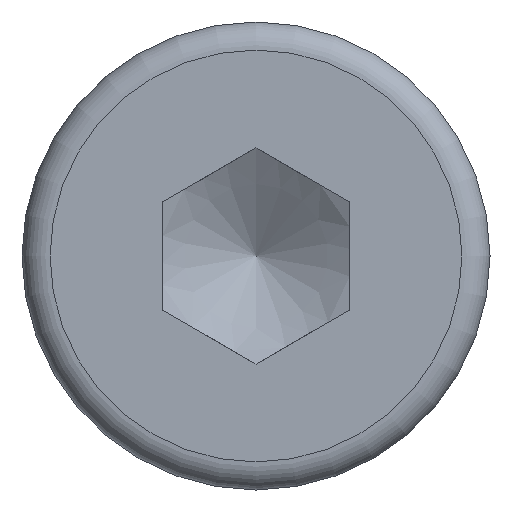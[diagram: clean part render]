
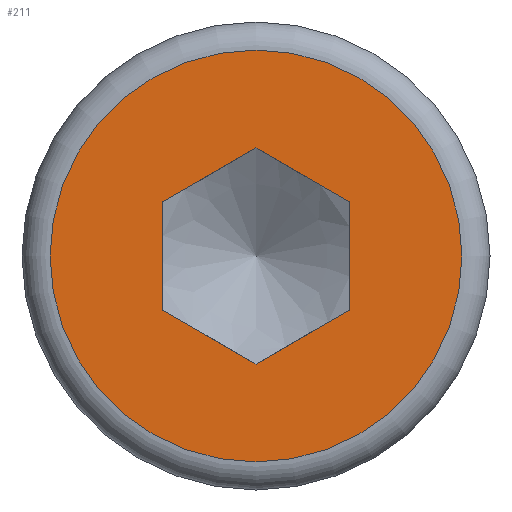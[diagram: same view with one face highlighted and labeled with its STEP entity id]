
A CAD part, left-side view. The second image highlights one B-rep face of the part: STEP entity #211.
In plain terms, the highlighted planar face has unit normal (-1, 0, 0).
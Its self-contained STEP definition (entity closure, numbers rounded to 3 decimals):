
#130=CARTESIAN_POINT('',(-4.,4.4,0.0));
#131=VERTEX_POINT('',#130);
#132=CARTESIAN_POINT('',(-4.,0.,0.0));
#133=DIRECTION('',(1.0,0.0,0.0));
#134=DIRECTION('',(0.0,-1.0,0.0));
#135=AXIS2_PLACEMENT_3D('',#132,#133,#134);
#136=CIRCLE('',#135,4.4);
#137=EDGE_CURVE('',#131,#131,#136,.T.);
#153=CARTESIAN_POINT('',(-4.,3.655,0.0));
#154=DIRECTION('',(-1.0,0.0,0.0));
#155=DIRECTION('',(0.0,0.0,1.0));
#156=AXIS2_PLACEMENT_3D('',#153,#154,#155);
#157=PLANE('',#156);
#158=ORIENTED_EDGE('',*,*,#137,.F.);
#159=EDGE_LOOP('',(#158));
#160=FACE_OUTER_BOUND('',#159,.T.);
#161=CARTESIAN_POINT('',(-4.,2.,-1.155));
#162=VERTEX_POINT('',#161);
#163=CARTESIAN_POINT('',(-4.,2.,1.155));
#164=VERTEX_POINT('',#163);
#165=CARTESIAN_POINT('',(-4.,2.,-1.155));
#166=DIRECTION('',(0.0,0.0,1.0));
#167=VECTOR('',#166,2.309);
#168=LINE('',#165,#167);
#169=EDGE_CURVE('',#162,#164,#168,.T.);
#170=ORIENTED_EDGE('',*,*,#169,.T.);
#171=CARTESIAN_POINT('',(-4.,0.,2.309));
#172=VERTEX_POINT('',#171);
#173=CARTESIAN_POINT('',(-4.,2.,1.155));
#174=DIRECTION('',(0.0,-0.866,0.5));
#175=VECTOR('',#174,2.309);
#176=LINE('',#173,#175);
#177=EDGE_CURVE('',#164,#172,#176,.T.);
#178=ORIENTED_EDGE('',*,*,#177,.T.);
#179=CARTESIAN_POINT('',(-4.,-2.,1.155));
#180=VERTEX_POINT('',#179);
#181=CARTESIAN_POINT('',(-4.,0.,2.309));
#182=DIRECTION('',(0.0,-0.866,-0.5));
#183=VECTOR('',#182,2.309);
#184=LINE('',#181,#183);
#185=EDGE_CURVE('',#172,#180,#184,.T.);
#186=ORIENTED_EDGE('',*,*,#185,.T.);
#187=CARTESIAN_POINT('',(-4.,-2.,-1.155));
#188=VERTEX_POINT('',#187);
#189=CARTESIAN_POINT('',(-4.,-2.,1.155));
#190=DIRECTION('',(0.0,0.0,-1.0));
#191=VECTOR('',#190,2.309);
#192=LINE('',#189,#191);
#193=EDGE_CURVE('',#180,#188,#192,.T.);
#194=ORIENTED_EDGE('',*,*,#193,.T.);
#195=CARTESIAN_POINT('',(-4.,0.,-2.309));
#196=VERTEX_POINT('',#195);
#197=CARTESIAN_POINT('',(-4.,-2.,-1.155));
#198=DIRECTION('',(0.0,0.866,-0.5));
#199=VECTOR('',#198,2.309);
#200=LINE('',#197,#199);
#201=EDGE_CURVE('',#188,#196,#200,.T.);
#202=ORIENTED_EDGE('',*,*,#201,.T.);
#203=CARTESIAN_POINT('',(-4.,0.,-2.309));
#204=DIRECTION('',(0.0,0.866,0.5));
#205=VECTOR('',#204,2.309);
#206=LINE('',#203,#205);
#207=EDGE_CURVE('',#196,#162,#206,.T.);
#208=ORIENTED_EDGE('',*,*,#207,.T.);
#209=EDGE_LOOP('',(#170,#178,#186,#194,#202,#208));
#210=FACE_BOUND('',#209,.T.);
#211=ADVANCED_FACE('',(#160,#210),#157,.T.);
